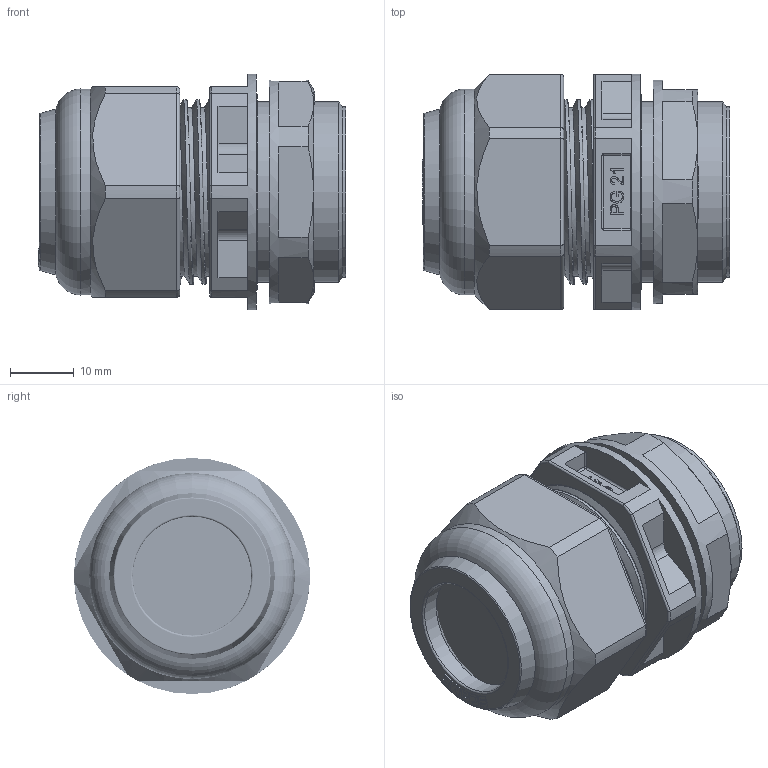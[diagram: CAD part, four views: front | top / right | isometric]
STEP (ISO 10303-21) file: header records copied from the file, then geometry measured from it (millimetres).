
FILE_DESCRIPTION(/* description */ (''),/* implementation_level */ '2;1');
FILE_NAME(/* name */ '4004514.stp',/* time_stamp */ '2019-03-01T15:07:43+01:00',/* author */ (''),/* organization */ (''),/* preprocessor_version */ 'ST-DEVELOPER v16.7',/* originating_system */ 'SIEMENS PLM Software NX 12.0',/* authorisation */ '');
FILE_SCHEMA (('AUTOMOTIVE_DESIGN { 1 0 10303 214 3 1 1 1 }'));
Length unit declared in the file: millimetre
Products named in the file (1): bsom23CC53FBprqq
Bounding box: 48.15 x 37 x 37 mm (x, y, z)
Volume: 20592.3 mm3; surface area: 20621.2 mm2
Topology: 4 solids, 4 shells, 562 faces, 1485 edges, 963 vertices
Faces by surface type: plane 313, cylinder 88, extrusion 70, cone 43, bspline 24, torus 16, sphere 8
Full cylindrical faces by diameter (mm): 18 x1, 18.6 x1, 18.8 x1, 22.1 x1, 22.2 x1, 26.498 x6, 26.78 x2, 26.8 x1, 28.298 x1, 29.5 x1, 30 x1, 32.3 x1, 35 x1, 37 x1
Entity records: 39016 total; most frequent: CARTESIAN_POINT 26128, ORIENTED_EDGE 2834, DIRECTION 2263, EDGE_CURVE 1417, VERTEX_POINT 942, VECTOR 773, AXIS2_PLACEMENT_3D 745, LINE 703
